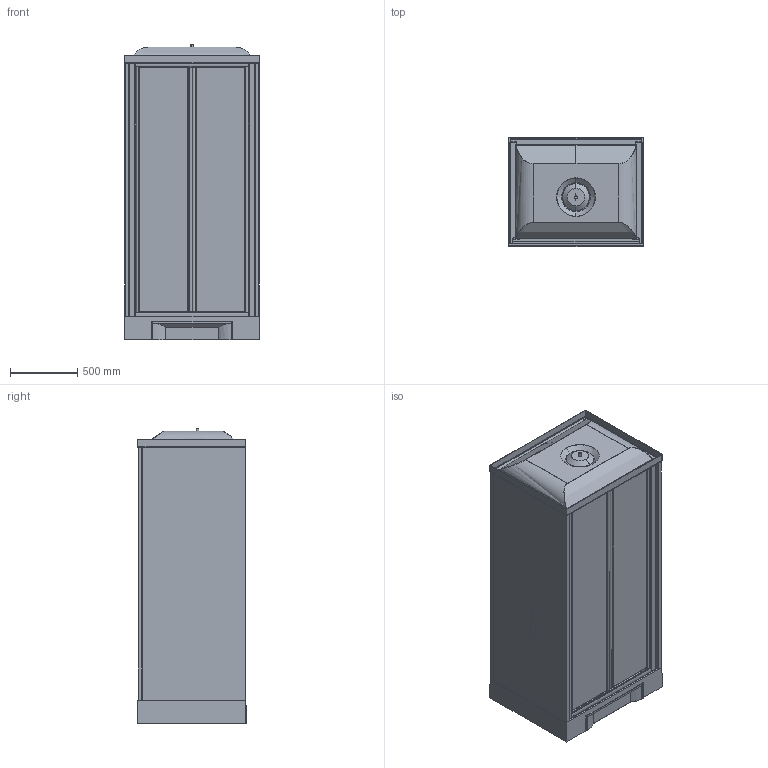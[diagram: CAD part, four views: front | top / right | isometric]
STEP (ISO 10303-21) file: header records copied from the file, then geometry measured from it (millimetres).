
FILE_DESCRIPTION(('STEP AP203'),'2;1');
FILE_NAME('NNH BI 100 M 19 F.stp','2015-09-04T15:03:40',(''),(''),'2014.1.117','THINKDESIGN','');
FILE_SCHEMA(('CONFIG_CONTROL_DESIGN'));
Bounding box: 1004.04 x 807.53 x 2192.4 mm (x, y, z)
Volume: 274681906.4 mm3; surface area: 21084273 mm2
Topology: 36 solids, 36 shells, 762 faces, 1893 edges, 1229 vertices
Faces by surface type: bspline 403, plane 264, cylinder 95
Entity records: 73667 total; most frequent: CARTESIAN_POINT 58478, ORIENTED_EDGE 3604, DIRECTION 2048, EDGE_CURVE 1802, VERTEX_POINT 1156, VECTOR 784, LINE 784, EDGE_LOOP 782
